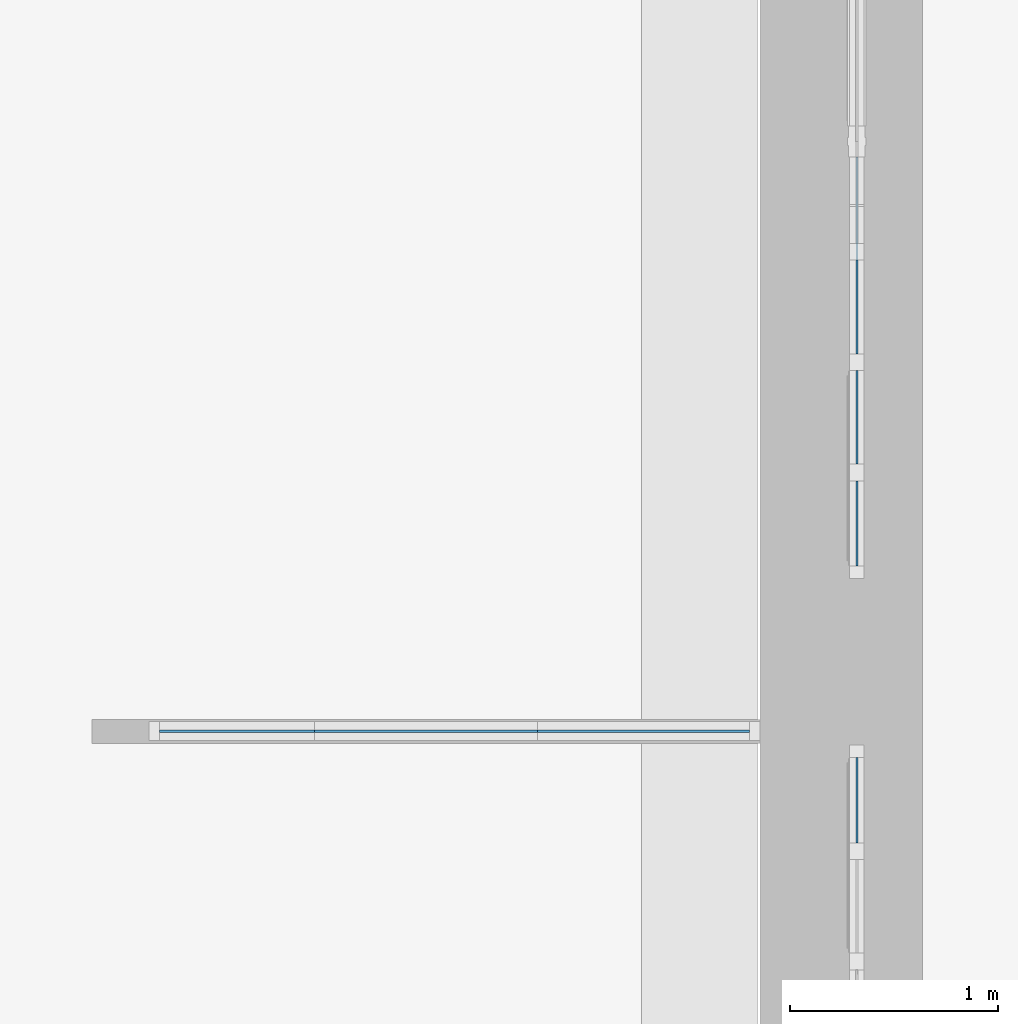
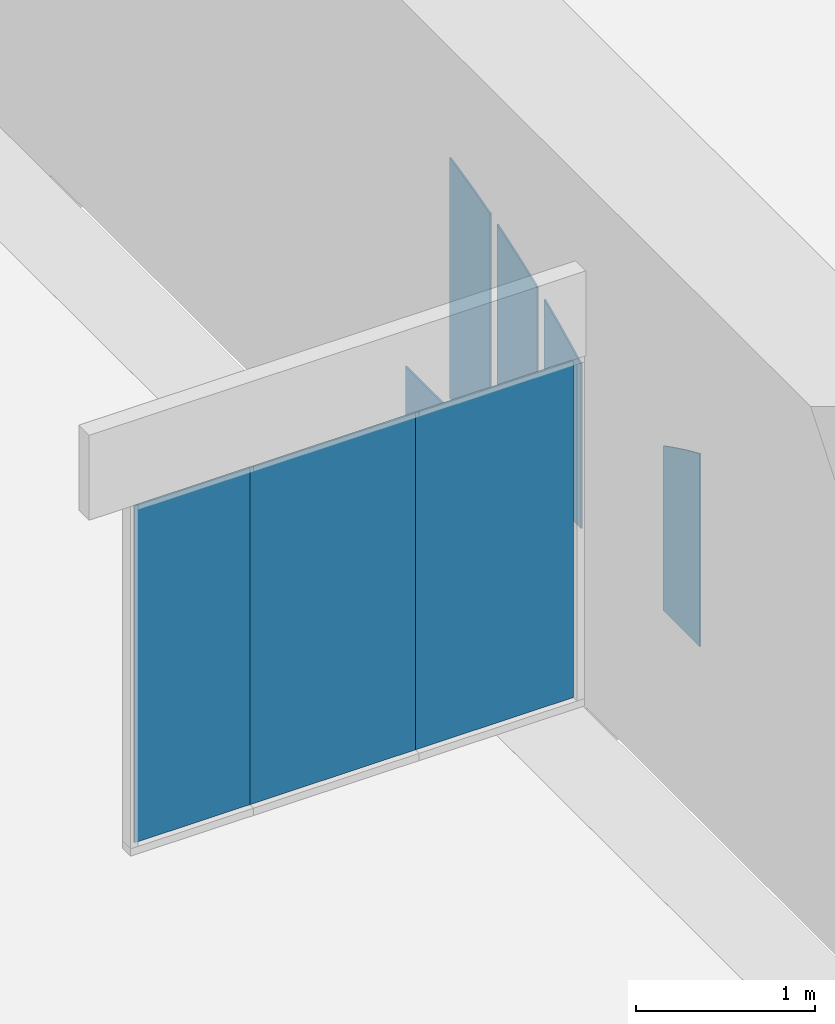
# One storey, part 55 of 88: 8 plates, 3 elements without a shape of their own.
"""IFC2X3 building model written with IfcOpenShell, lengths in millimetres."""

from ifc_helpers import new_model, entity, si_unit, converted_unit, derived_unit, direction, frame, frame_2d, origin, origin_2d_with_axis, place, context, subcontext, project, spatial, polyline, circle_curve, parameter, trimmed, segment, composite_curve, rectangle, outline, extrude, source, transform, mapped, material, type_object, type_shapes, element, aggregate, save


model = new_model("IFC2X3")

# Units and contexts
model_context = context("Model", 3, precision=0.01, world=origin(), true_north=direction((6.123031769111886e-17, 1.0)))
body_context = subcontext(model_context, "Body", "Model", "MODEL_VIEW")
ifc_project = project(units=[si_unit("LENGTHUNIT", "METRE", prefix="MILLI"), si_unit("AREAUNIT", "SQUARE_METRE"), si_unit("VOLUMEUNIT", "CUBIC_METRE"), converted_unit("PLANEANGLEUNIT", "DEGREE", entity("IfcPlaneAngleMeasure", 0.017453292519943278), si_unit("PLANEANGLEUNIT", "RADIAN"), dimensions=[0, 0, 0, 0, 0, 0, 0]), si_unit("MASSUNIT", "GRAM", prefix="KILO"), derived_unit("MASSDENSITYUNIT", [(si_unit("MASSUNIT", "GRAM", prefix="KILO"), 1), (si_unit("LENGTHUNIT", "METRE"), -3)]), derived_unit("IONCONCENTRATIONUNIT", [(si_unit("MASSUNIT", "GRAM", prefix="KILO"), 1), (si_unit("LENGTHUNIT", "METRE"), -3)]), derived_unit("MOMENTOFINERTIAUNIT", [(si_unit("LENGTHUNIT", "METRE"), 4)]), si_unit("TIMEUNIT", "SECOND"), si_unit("FREQUENCYUNIT", "HERTZ"), si_unit("THERMODYNAMICTEMPERATUREUNIT", "DEGREE_CELSIUS"), derived_unit("THERMALTRANSMITTANCEUNIT", [(si_unit("MASSUNIT", "GRAM", prefix="KILO"), 1), (si_unit("THERMODYNAMICTEMPERATUREUNIT", "KELVIN"), -1), (si_unit("TIMEUNIT", "SECOND"), -3)]), derived_unit("THERMALCONDUCTANCEUNIT", [(si_unit("MASSUNIT", "GRAM", prefix="KILO"), 1), (si_unit("THERMODYNAMICTEMPERATUREUNIT", "KELVIN"), -1), (si_unit("TIMEUNIT", "SECOND"), -3), (si_unit("LENGTHUNIT", "METRE"), 1)]), derived_unit("VOLUMETRICFLOWRATEUNIT", [(si_unit("LENGTHUNIT", "METRE", prefix="DECI"), 3), (si_unit("TIMEUNIT", "SECOND"), -1)]), derived_unit("MASSFLOWRATEUNIT", [(si_unit("MASSUNIT", "GRAM", prefix="KILO"), 1), (si_unit("TIMEUNIT", "SECOND"), -1)]), derived_unit("ROTATIONALFREQUENCYUNIT", [(si_unit("TIMEUNIT", "SECOND"), -1)]), si_unit("ELECTRICCURRENTUNIT", "AMPERE"), si_unit("ELECTRICVOLTAGEUNIT", "VOLT"), si_unit("POWERUNIT", "WATT"), si_unit("FORCEUNIT", "NEWTON", prefix="KILO"), si_unit("ILLUMINANCEUNIT", "LUX"), si_unit("LUMINOUSFLUXUNIT", "LUMEN"), si_unit("LUMINOUSINTENSITYUNIT", "CANDELA"), si_unit("ENERGYUNIT", "JOULE"), derived_unit("USERDEFINED", [(si_unit("MASSUNIT", "GRAM", prefix="KILO"), -1), (si_unit("LENGTHUNIT", "METRE"), -2), (si_unit("TIMEUNIT", "SECOND"), 3), (si_unit("LUMINOUSFLUXUNIT", "LUMEN"), 1)]), derived_unit("USERDEFINED", [(si_unit("MASSUNIT", "GRAM", prefix="KILO"), 1), (si_unit("TIMEUNIT", "SECOND"), -3), (si_unit("LENGTHUNIT", "METRE"), 3), (si_unit("ELECTRICCURRENTUNIT", "AMPERE"), -2)]), derived_unit("SOUNDPOWERUNIT", [(si_unit("MASSUNIT", "GRAM", prefix="KILO"), 1), (si_unit("TIMEUNIT", "SECOND"), -3), (si_unit("LENGTHUNIT", "METRE"), 2)]), derived_unit("SOUNDPRESSUREUNIT", [(si_unit("MASSUNIT", "GRAM", prefix="KILO"), 1), (si_unit("LENGTHUNIT", "METRE"), -1), (si_unit("TIMEUNIT", "SECOND"), -2)]), derived_unit("LINEARVELOCITYUNIT", [(si_unit("LENGTHUNIT", "METRE"), 1), (si_unit("TIMEUNIT", "SECOND"), -1)]), si_unit("PRESSUREUNIT", "PASCAL"), derived_unit("USERDEFINED", [(si_unit("MASSUNIT", "GRAM", prefix="KILO"), 1), (si_unit("LENGTHUNIT", "METRE"), -2), (si_unit("TIMEUNIT", "SECOND"), -2)]), derived_unit("LINEARFORCEUNIT", [(si_unit("MASSUNIT", "GRAM", prefix="KILO"), 1), (si_unit("TIMEUNIT", "SECOND"), -2)]), derived_unit("PLANARFORCEUNIT", [(si_unit("MASSUNIT", "GRAM", prefix="KILO"), 1), (si_unit("LENGTHUNIT", "METRE"), -1), (si_unit("TIMEUNIT", "SECOND"), -2)]), derived_unit("SPECIFICHEATCAPACITYUNIT", [(si_unit("THERMODYNAMICTEMPERATUREUNIT", "KELVIN"), -1), (si_unit("LENGTHUNIT", "METRE"), 2), (si_unit("TIMEUNIT", "SECOND"), -2)]), derived_unit("HEATFLUXDENSITYUNIT", [(si_unit("MASSUNIT", "GRAM", prefix="KILO"), 1), (si_unit("TIMEUNIT", "SECOND"), -3)]), derived_unit("HEATINGVALUEUNIT", [(si_unit("LENGTHUNIT", "METRE"), 2), (si_unit("TIMEUNIT", "SECOND"), -2)]), derived_unit("VAPORPERMEABILITYUNIT", [(si_unit("LENGTHUNIT", "METRE"), -1), (si_unit("TIMEUNIT", "SECOND"), 1)]), derived_unit("DYNAMICVISCOSITYUNIT", [(si_unit("MASSUNIT", "GRAM", prefix="KILO"), 1), (si_unit("TIMEUNIT", "SECOND"), -1), (si_unit("LENGTHUNIT", "METRE"), -1)]), derived_unit("THERMALEXPANSIONCOEFFICIENTUNIT", [(si_unit("THERMODYNAMICTEMPERATUREUNIT", "KELVIN"), -1)]), derived_unit("MODULUSOFELASTICITYUNIT", [(si_unit("MASSUNIT", "GRAM", prefix="KILO"), 1), (si_unit("LENGTHUNIT", "METRE"), -1), (si_unit("TIMEUNIT", "SECOND"), -2)]), derived_unit("ISOTHERMALMOISTURECAPACITYUNIT", [(si_unit("MASSUNIT", "GRAM", prefix="KILO"), -1), (si_unit("LENGTHUNIT", "METRE"), 3)]), derived_unit("MOISTUREDIFFUSIVITYUNIT", [(si_unit("TIMEUNIT", "SECOND"), -1), (si_unit("LENGTHUNIT", "METRE"), 2)]), derived_unit("MASSPERLENGTHUNIT", [(si_unit("MASSUNIT", "GRAM", prefix="KILO"), 1), (si_unit("LENGTHUNIT", "METRE"), -1)]), derived_unit("THERMALRESISTANCEUNIT", [(si_unit("MASSUNIT", "GRAM", prefix="KILO"), -1), (si_unit("TIMEUNIT", "SECOND"), 3), (si_unit("THERMODYNAMICTEMPERATUREUNIT", "KELVIN"), 1)]), derived_unit("ACCELERATIONUNIT", [(si_unit("LENGTHUNIT", "METRE"), 1), (si_unit("TIMEUNIT", "SECOND"), -2)]), derived_unit("ANGULARVELOCITYUNIT", [(si_unit("TIMEUNIT", "SECOND"), -1), (si_unit("PLANEANGLEUNIT", "RADIAN"), 1)]), derived_unit("LINEARSTIFFNESSUNIT", [(si_unit("MASSUNIT", "GRAM", prefix="KILO"), 1), (si_unit("TIMEUNIT", "SECOND"), -2)]), derived_unit("WARPINGCONSTANTUNIT", [(si_unit("LENGTHUNIT", "METRE"), 6)]), derived_unit("LINEARMOMENTUNIT", [(si_unit("MASSUNIT", "GRAM", prefix="KILO"), 1), (si_unit("LENGTHUNIT", "METRE"), 1), (si_unit("TIMEUNIT", "SECOND"), -2)]), derived_unit("TORQUEUNIT", [(si_unit("MASSUNIT", "GRAM", prefix="KILO"), 1), (si_unit("LENGTHUNIT", "METRE"), 2), (si_unit("TIMEUNIT", "SECOND"), -2)])], contexts=[model_context])

# Site, building, storey
site_placement = place(None, origin())
site = spatial("IfcSite", under=ifc_project, at=site_placement, Name="Default", CompositionType="ELEMENT")
building_placement = place(site_placement, origin())
building = spatial("IfcBuilding", under=site, at=building_placement, Name="Eesti Rahvusraamatukogu hoone renoveerimise projekteerimistööd", CompositionType="ELEMENT")
storey_placement = place(building_placement, origin())
storey = spatial("IfcBuildingStorey", under=building, at=storey_placement, Name="1. korrus", CompositionType="ELEMENT", Elevation=0.0)

# Curtain wall, plates
curtain_wall_type_1 = type_object("IfcCurtainWallType", Name="Curtain Wall:VLS Klaasvahesein profiilita 38db", PredefinedType="NOTDEFINED")
curtain_wall_1_placement = place(storey_placement, origin())
curtain_wall_1 = element("IfcCurtainWall", 1, at=curtain_wall_1_placement, inside=storey, type_object=curtain_wall_type_1, Name="Curtain Wall:VLS Klaasvahesein profiilita 38db", ObjectType="Curtain Wall:VLS Klaasvahesein profiilita 38db")
ifc_material_1 = material(Name="EST. Klaas. 1x. E-korpus")
plate_type_1 = type_object("IfcPlateType", Name="System Panel:VLS Klaas KAR/LAM 6+1+6", PredefinedType="CURTAIN_PANEL", material=ifc_material_1)
shared_shape_1 = source(origin(), body_context, "Body", "SweptSolid", [
    extrude(rectangle(XDim=13.000000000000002, YDim=1020.0000001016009, at=origin_2d_with_axis()), frame((0.0, 0.0, 0.0), z_axis=(0.0, 0.0, 1.0), x_axis=(0.0, 1.0, 0.0)), (0.0, 0.0, 1.0), 2300.0),
])
type_shapes(plate_type_1, [shared_shape_1])
plate_1_placement = place(curtain_wall_1_placement, frame((-43930.00000005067, 24092.0, 50.0), z_axis=(0.0, 0.0, 1.0), x_axis=(-1.0, 0.0, 0.0)))
plate_1 = element("IfcPlate", 2, at=plate_1_placement, type_object=plate_type_1, material=ifc_material_1, Name="System Panel:VLS Klaas KAR/LAM 6+1+6", ObjectType="System Panel:VLS Klaas KAR/LAM 6+1+6", context=body_context, shape_type="MappedRepresentation", body=[
    mapped(shared_shape_1, transform((0.0, 0.0, 0.0), scale=1.0)),
])
plate_type_2 = type_object("IfcPlateType", Name="System Panel:VLS Klaas KAR/LAM 6+1+6", PredefinedType="CURTAIN_PANEL", material=ifc_material_1)
shared_shape_2 = source(origin(), body_context, "Body", "SweptSolid", [
    extrude(rectangle(XDim=13.000000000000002, YDim=1070.0000001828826, at=origin_2d_with_axis()), frame((0.0, 0.0, 0.0), z_axis=(0.0, 0.0, 1.0), x_axis=(0.0, 1.0, 0.0)), (0.0, 0.0, 1.0), 2300.0000000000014),
])
type_shapes(plate_type_2, [shared_shape_2])
plate_2_placement = place(curtain_wall_1_placement, frame((-44975.0, 24092.0, 50.0), z_axis=(0.0, 0.0, 1.0), x_axis=(-1.0, 0.0, 0.0)))
plate_2 = element("IfcPlate", 3, at=plate_2_placement, type_object=plate_type_2, material=ifc_material_1, Name="System Panel:VLS Klaas KAR/LAM 6+1+6", ObjectType="System Panel:VLS Klaas KAR/LAM 6+1+6", context=body_context, shape_type="MappedRepresentation", body=[
    mapped(shared_shape_2, transform((0.0, 0.0, 0.0), scale=1.0)),
])
plate_type_3 = type_object("IfcPlateType", Name="System Panel:VLS Klaas KAR/LAM 6+1+6", PredefinedType="CURTAIN_PANEL", material=ifc_material_1)
shared_shape_3 = source(origin(), body_context, "Body", "SweptSolid", [
    extrude(rectangle(XDim=13.000000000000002, YDim=745.0000001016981, at=origin_2d_with_axis()), frame((0.0, 0.0, 0.0), z_axis=(0.0, 0.0, 1.0), x_axis=(0.0, 1.0, 0.0)), (0.0, 0.0, 1.0), 2300.0),
])
type_shapes(plate_type_3, [shared_shape_3])
plate_3_placement = place(curtain_wall_1_placement, frame((-45882.49999994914, 24092.0, 50.0), z_axis=(0.0, 0.0, 1.0), x_axis=(-1.0, 0.0, 0.0)))
plate_3 = element("IfcPlate", 4, at=plate_3_placement, type_object=plate_type_3, material=ifc_material_1, Name="System Panel:VLS Klaas KAR/LAM 6+1+6", ObjectType="System Panel:VLS Klaas KAR/LAM 6+1+6", context=body_context, shape_type="MappedRepresentation", body=[
    mapped(shared_shape_3, transform((0.0, 0.0, 0.0), scale=1.0)),
])
aggregate(curtain_wall_1, [plate_1, plate_2, plate_3])

# Curtain wall, plate
curtain_wall_type_2 = type_object("IfcCurtainWallType", Name="Curtain Wall:Ak-05", PredefinedType="NOTDEFINED")
curtain_wall_2_placement = place(storey_placement, origin())
curtain_wall_2 = element("IfcCurtainWall", 5, at=curtain_wall_2_placement, inside=storey, type_object=curtain_wall_type_2, Name="Curtain Wall:Ak-05", ObjectType="Curtain Wall:Ak-05")
ifc_material_2 = material(Name="EST. Klaas. 3x. Default")
plate_type_4 = type_object("IfcPlateType", Name="System Panel:Peegelaknad 6-16-4-16-4, paneel", PredefinedType="CURTAIN_PANEL", material=ifc_material_2)
shared_shape_4 = source(origin(), body_context, "Body", "SweptSolid", [
    extrude(rectangle(XDim=450.00000000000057, YDim=945.0000000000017, at=frame_2d((0.0, 5.833333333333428), x_axis=(1.0, 0.0))), frame((-5.8333333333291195, -5.0, 225.0), z_axis=(0.0, 1.0, 0.0), x_axis=(0.0, 0.0, 1.0)), (0.0, 0.0, 1.0), 10.0),
])
type_shapes(plate_type_4, [shared_shape_4])
plate_4_placement = place(curtain_wall_2_placement, frame((-42905.0, 26377.49999999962, 10.0), z_axis=(0.0, 0.0, 1.0), x_axis=(0.0, -1.0, 0.0)))
plate_4 = element("IfcPlate", 6, at=plate_4_placement, type_object=plate_type_4, material=ifc_material_2, Name="System Panel:Peegelaknad 6-16-4-16-4, paneel", ObjectType="System Panel:Peegelaknad 6-16-4-16-4, paneel", context=body_context, shape_type="MappedRepresentation", body=[
    mapped(shared_shape_4, transform((0.0, 0.0, 0.0), scale=1.0)),
])

curtain_wall_3_placement = place(storey_placement, origin())
curtain_wall_3 = element("IfcCurtainWall", 7, at=curtain_wall_3_placement, inside=storey, type_object=curtain_wall_type_2, Name="Curtain Wall:Ak-05", ObjectType="Curtain Wall:Ak-05")
plate_type_5 = type_object("IfcPlateType", Name="System Panel:Peegelaknad 6-16-4-16-4, paneel", PredefinedType="CURTAIN_PANEL", material=ifc_material_2)
shared_shape_5 = source(origin(), body_context, "Body", "SweptSolid", [
    extrude(outline(composite_curve([segment(polyline([(-610.3301409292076, -205.0), (513.3133718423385, -205.0)]), True, "CONTINUOUS"), segment(trimmed(circle_curve(frame_2d((-4323.610707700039, 2335.0), x_axis=(0.9256428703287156, -0.37839830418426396)), 5463.280566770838), [parameter(354.5293230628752)], [parameter(359.2877436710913)], True, "PARAMETER"), True, "CONTINUOUS"), segment(polyline([(707.3469100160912, 205.0), (-610.3301409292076, 205.0)]), True, "CONTINUOUS"), segment(polyline([(-610.3301409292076, 205.0), (-610.3301409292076, -205.0)]), True, "CONTINUOUS")], self_intersect=False)), frame((0.0, -5.0, 610.3301409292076), z_axis=(0.0, 1.0, 0.0), x_axis=(0.0, 0.0, 1.0)), (0.0, 0.0, 1.0), 10.0),
])
type_shapes(plate_type_5, [shared_shape_5])
plate_5_placement = place(curtain_wall_3_placement, frame((-42905.0, 23760.0, 540.0), z_axis=(0.0, 0.0, 1.0), x_axis=(0.0, -1.0, 0.0)))
plate_5 = element("IfcPlate", 8, at=plate_5_placement, type_object=plate_type_5, material=ifc_material_2, Name="System Panel:Peegelaknad 6-16-4-16-4, paneel", ObjectType="System Panel:Peegelaknad 6-16-4-16-4, paneel", context=body_context, shape_type="MappedRepresentation", body=[
    mapped(shared_shape_5, transform((0.0, 0.0, 0.0), scale=1.0)),
])
aggregate(curtain_wall_3, [plate_5])

# Plate
plate_type_6 = type_object("IfcPlateType", Name="System Panel:Peegelaknad 6-16-4-16-4, paneel", PredefinedType="CURTAIN_PANEL", material=ifc_material_2)
shared_shape_6 = source(origin(), body_context, "Body", "SweptSolid", [
    extrude(outline(composite_curve([segment(polyline([(-794.621917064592, 225.0), (-794.621917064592, -225.0)]), True, "CONTINUOUS"), segment(polyline([(-794.621917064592, -225.0), (739.6716748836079, -225.0)]), True, "CONTINUOUS"), segment(trimmed(circle_curve(frame_2d((-4507.902483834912, 1295.0), x_axis=(0.9592847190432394, -0.2824408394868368)), 5463.280566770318), [parameter(0.25187197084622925)], [parameter(5.111376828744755)], True, "PARAMETER"), True, "CONTINUOUS"), segment(polyline([(849.5721592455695, 225.0), (-794.621917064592, 225.0)]), True, "CONTINUOUS")], self_intersect=False)), frame((0.0, -5.0, 794.621917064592), z_axis=(0.0, -1.0, 0.0), x_axis=(0.0, 0.0, 1.0)), (0.0, 0.0, -1.0), 10.0),
])
type_shapes(plate_type_6, [shared_shape_6])
plate_6_placement = place(curtain_wall_2_placement, frame((-42905.0, 26130.0, 540.0), z_axis=(0.0, 0.0, 1.0), x_axis=(0.0, -1.0, 0.0)))
plate_6 = element("IfcPlate", 9, at=plate_6_placement, type_object=plate_type_6, material=ifc_material_2, Name="System Panel:Peegelaknad 6-16-4-16-4, paneel", ObjectType="System Panel:Peegelaknad 6-16-4-16-4, paneel", context=body_context, shape_type="MappedRepresentation", body=[
    mapped(shared_shape_6, transform((0.0, 0.0, 0.0), scale=1.0)),
])

plate_type_7 = type_object("IfcPlateType", Name="System Panel:Peegelaknad 6-16-4-16-4, paneel", PredefinedType="CURTAIN_PANEL", material=ifc_material_2)
shared_shape_7 = source(origin(), body_context, "Body", "SweptSolid", [
    extrude(outline(composite_curve([segment(polyline([(-715.3148161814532, 225.0), (-715.3148161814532, -225.0)]), True, "CONTINUOUS"), segment(polyline([(-715.3148161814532, -225.0), (635.4874117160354, -225.0)]), True, "CONTINUOUS"), segment(trimmed(circle_curve(frame_2d((-4428.59538295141, 1825.0), x_axis=(0.9256428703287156, -0.3783983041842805)), 5463.280566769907), [parameter(0.19582649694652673)], [parameter(5.204987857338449)], True, "PARAMETER"), True, "CONTINUOUS"), segment(polyline([(795.1422206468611, 225.0), (-715.3148161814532, 225.0)]), True, "CONTINUOUS")], self_intersect=False)), frame((0.0, -5.0, 715.3148161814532), z_axis=(0.0, -1.0, 0.0), x_axis=(0.0, 0.0, 1.0)), (0.0, 0.0, -1.0), 10.0),
])
type_shapes(plate_type_7, [shared_shape_7])
plate_7_placement = place(curtain_wall_2_placement, frame((-42905.0, 25600.0, 540.0), z_axis=(0.0, 0.0, 1.0), x_axis=(0.0, -1.0, 0.0)))
plate_7 = element("IfcPlate", 10, at=plate_7_placement, type_object=plate_type_7, material=ifc_material_2, Name="System Panel:Peegelaknad 6-16-4-16-4, paneel", ObjectType="System Panel:Peegelaknad 6-16-4-16-4, paneel", context=body_context, shape_type="MappedRepresentation", body=[
    mapped(shared_shape_7, transform((0.0, 0.0, 0.0), scale=1.0)),
])

plate_type_8 = type_object("IfcPlateType", Name="System Panel:Peegelaknad 6-16-4-16-4, paneel", PredefinedType="CURTAIN_PANEL", material=ifc_material_2)
shared_shape_8 = source(origin(), body_context, "Body", "SweptSolid", [
    extrude(outline(composite_curve([segment(polyline([(-610.3301409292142, 205.0), (-610.3301409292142, -205.0)]), True, "CONTINUOUS"), segment(polyline([(-610.3301409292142, -205.0), (513.3133718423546, -205.0)]), True, "CONTINUOUS"), segment(trimmed(circle_curve(frame_2d((-4323.610707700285, 2335.0), x_axis=(0.8822747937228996, -0.4707347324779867)), 5463.280566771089), [parameter(0.37681807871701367)], [parameter(5.135238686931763)], True, "PARAMETER"), True, "CONTINUOUS"), segment(polyline([(707.3469100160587, 205.0), (-610.3301409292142, 205.0)]), True, "CONTINUOUS")], self_intersect=False)), frame((0.0, -5.0, 610.3301409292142), z_axis=(0.0, -1.0, 0.0), x_axis=(0.0, 0.0, 1.0)), (0.0, 0.0, -1.0), 10.0),
])
type_shapes(plate_type_8, [shared_shape_8])
plate_8_placement = place(curtain_wall_2_placement, frame((-42905.0, 25090.0, 540.0), z_axis=(0.0, 0.0, 1.0), x_axis=(0.0, -1.0, 0.0)))
plate_8 = element("IfcPlate", 11, at=plate_8_placement, type_object=plate_type_8, material=ifc_material_2, Name="System Panel:Peegelaknad 6-16-4-16-4, paneel", ObjectType="System Panel:Peegelaknad 6-16-4-16-4, paneel", context=body_context, shape_type="MappedRepresentation", body=[
    mapped(shared_shape_8, transform((0.0, 0.0, 0.0), scale=1.0)),
])

aggregate(curtain_wall_2, [plate_4, plate_6, plate_7, plate_8])

save(model, "model.ifc")
